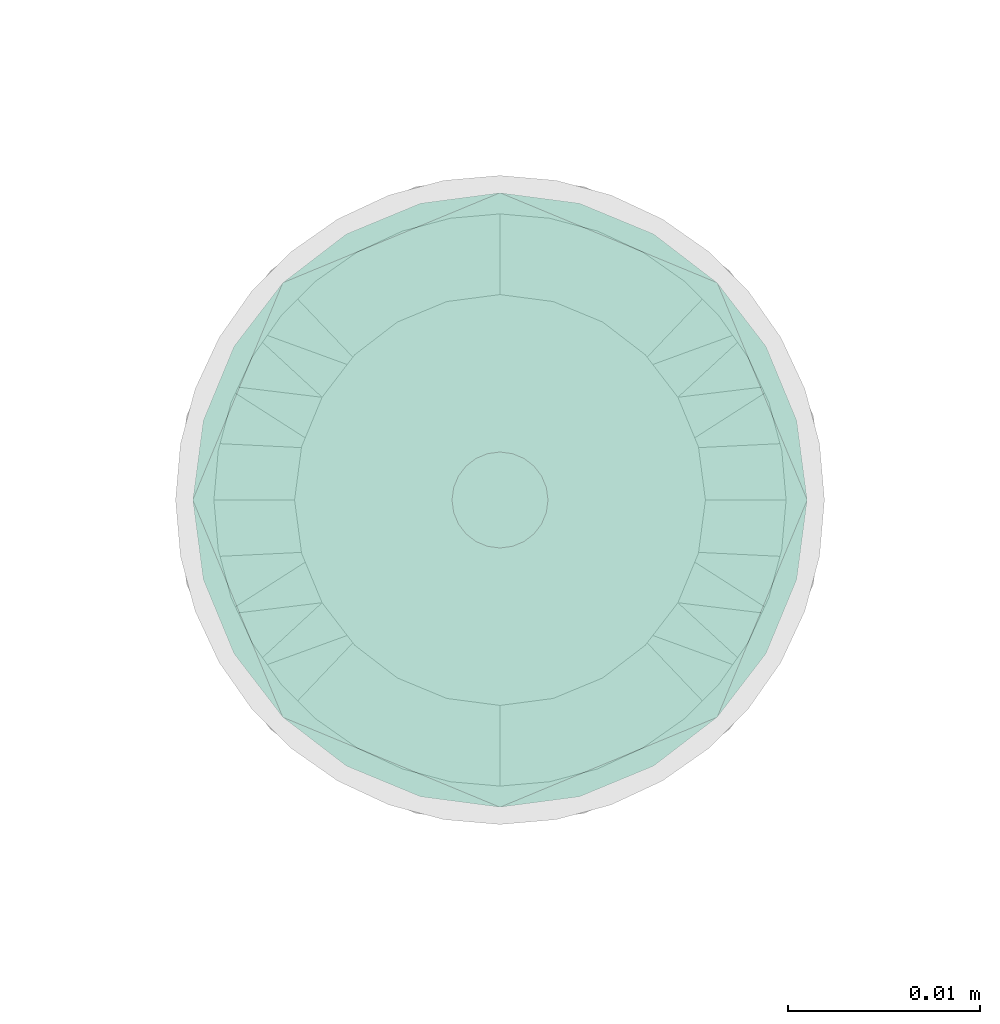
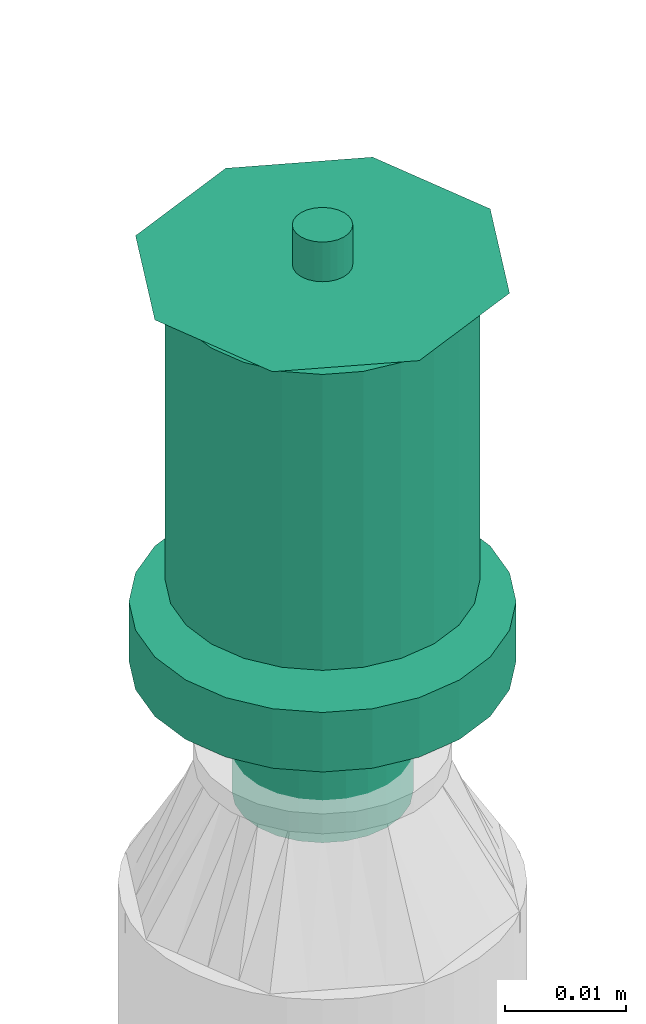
# One storey, part 22 of 44: 1 flow terminal.
"""IFC2X3 building model written with IfcOpenShell, lengths in millimetres."""

from ifc_helpers import new_model, entity, si_unit, converted_unit, derived_unit, direction, frame, origin_with_axes, place, context, subcontext, project, spatial, open_shell, surface_model, source, transform, mapped, type_object, element, save


model = new_model("IFC2X3")

# Units and contexts
model_context = context("Model", 3, precision=0.01, world=frame((0.0, 4.29681676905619e-09, 0.0)), true_north=direction((4.01073788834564e-13, 1.0)))
plan_context = context("Plan", 3, precision=0.01, world=frame((0.0, 4.29681676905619e-09, 0.0)), true_north=direction((4.01073788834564e-13, 1.0)))
body_context = subcontext(model_context, "Body", "Model", "MODEL_VIEW")
ifc_project = project(units=[converted_unit("PLANEANGLEUNIT", "DEGREE", entity("IfcPositiveLengthMeasure", 0.0174532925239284), si_unit("PLANEANGLEUNIT", "RADIAN"), dimensions=[0, 0, 0, 0, 0, 0, 0]), si_unit("AREAUNIT", "SQUARE_METRE"), si_unit("LENGTHUNIT", "METRE", prefix="MILLI"), si_unit("MASSUNIT", "GRAM", prefix="KILO"), si_unit("POWERUNIT", "WATT"), si_unit("PRESSUREUNIT", "PASCAL"), si_unit("FORCEUNIT", "NEWTON", prefix="KILO"), si_unit("ELECTRICVOLTAGEUNIT", "VOLT"), si_unit("ELECTRICCURRENTUNIT", "AMPERE"), si_unit("THERMODYNAMICTEMPERATUREUNIT", "DEGREE_CELSIUS"), si_unit("TIMEUNIT", "SECOND"), si_unit("VOLUMEUNIT", "CUBIC_METRE"), derived_unit("LINEARVELOCITYUNIT", [(si_unit("LENGTHUNIT", "METRE"), 1), (si_unit("TIMEUNIT", "SECOND"), -1)]), derived_unit("VOLUMETRICFLOWRATEUNIT", [(si_unit("VOLUMEUNIT", "CUBIC_METRE"), 1), (si_unit("TIMEUNIT", "SECOND"), -1)]), derived_unit("THERMALTRANSMITTANCEUNIT", [(si_unit("POWERUNIT", "WATT"), 1), (si_unit("THERMODYNAMICTEMPERATUREUNIT", "KELVIN"), -1), (si_unit("AREAUNIT", "SQUARE_METRE"), -1)]), derived_unit("SOUNDPRESSUREUNIT", [(si_unit("PRESSUREUNIT", "PASCAL"), 1)])], contexts=[model_context, plan_context])

# Site, building, storey
site_placement = place(None, frame((0.0, -4.29681676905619e-09, 0.0), z_axis=(0.0, 0.0, 1.0), x_axis=(1.0, 0.0, 0.0)))
site = spatial("IfcSite", under=ifc_project, at=site_placement, CompositionType="ELEMENT")
building_placement = place(site_placement, frame((0.0, 4.29681676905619e-09, 0.0), z_axis=(0.0, 0.0, 1.0), x_axis=(1.0, 0.0, 0.0)))
building = spatial("IfcBuilding", under=site, at=building_placement, Name="mc-building", CompositionType="ELEMENT")
storey_placement = place(building_placement, frame((0.0, 0.0, 207370.0), z_axis=(0.0, 0.0, 1.0), x_axis=(1.0, 0.0, 0.0)))
storey = spatial("IfcBuildingStorey", under=building, at=storey_placement, Name="Nivå E", CompositionType="ELEMENT", Elevation=207370.0)

# Flow terminal
fire_suppression_terminal_type = type_object("IfcFireSuppressionTerminalType", Name="68DGR-STD-STÅENDE", PredefinedType="NOTDEFINED")
shared_shape = source(origin_with_axes(), body_context, "Body", "SurfaceModel", [
    surface_model("IfcShellBasedSurfaceModel", [(3.36465, -12.55704, 51.0), (6.5, -11.25833, 51.0), (9.19239, -9.19239, 51.0), (12.55704, -3.36465, 51.0), (-11.25833, -6.5, 51.0), (11.25833, -6.5, 51.0), (-13.0, 0.0, 51.0), (0.0, -13.0, 51.0), (-6.5, -11.25833, 51.0), (-3.36465, -12.55704, 51.0), (-9.19239, -9.19239, 51.0), (-12.55704, -3.36465, 51.0), (13.0, 0.0, 51.0), (12.55704, 3.36465, 51.0), (11.25833, 6.5, 51.0), (9.19239, 9.19239, 51.0), (6.5, 11.25833, 51.0), (3.36465, 12.55704, 51.0), (0.0, 13.0, 51.0), (-3.36465, 12.55704, 51.0), (-12.55704, 3.36465, 51.0), (-9.19239, 9.19239, 51.0), (-11.25833, 6.5, 51.0), (-6.5, 11.25833, 51.0), (0.0, 13.0, 21.14766), (3.36465, 12.55704, 21.14766), (6.5, 11.25833, 21.14766), (-3.36465, 12.55704, 21.14766), (9.19239, 9.19239, 21.14766), (11.25833, 6.5, 21.14766), (12.55704, 3.36465, 21.14766), (-12.55704, 3.36465, 21.14766), (-11.25833, -6.5, 21.14766), (-9.19239, 9.19239, 21.14766), (-6.5, 11.25833, 21.14766), (-11.25833, 6.5, 21.14766), (-13.0, 0.0, 21.14766), (12.55704, -3.36465, 21.14766), (9.19239, -9.19239, 21.14766), (11.25833, -6.5, 21.14766), (6.5, -11.25833, 21.14766), (3.36465, -12.55704, 21.14766), (-6.5, -11.25833, 21.14766), (-9.19239, -9.19239, 21.14766), (-12.55704, -3.36465, 21.14766), (0.0, -13.0, 21.14766), (-3.36465, -12.55704, 21.14766), (13.0, 0.0, 21.14766), (7.24444, -1.94114, 0.1), (1.94114, -7.24444, 0.1), (3.75, -6.49519, 0.1), (5.3033, -5.3033, 0.1), (-5.3033, -5.3033, 0.1), (6.49519, -3.75, 0.1), (5.3033, 5.3033, 0.1), (0.0, -7.5, 0.1), (-3.75, -6.49519, 0.1), (-1.94114, -7.24444, 0.1), (-7.24444, -1.94114, 0.1), (-6.49519, -3.75, 0.1), (-7.24444, 1.94114, 0.1), (7.5, 0.0, 0.1), (6.49519, 3.75, 0.1), (-6.49519, 3.75, 0.1), (1.94114, 7.24444, 0.1), (0.0, 7.5, 0.1), (3.75, 6.49519, 0.1), (-7.5, 0.0, 0.1), (-5.3033, 5.3033, 0.1), (-1.94114, 7.24444, 0.1), (-3.75, 6.49519, 0.1), (7.24444, 1.94114, 0.1), (1.94114, 7.24444, -0.1), (-6.49519, 3.75, -0.1), (0.0, 7.5, -0.1), (5.3033, 5.3033, -0.1), (3.75, 6.49519, -0.1), (6.49519, 3.75, -0.1), (7.24444, 1.94114, -0.1), (-1.94114, 7.24444, -0.1), (-5.3033, 5.3033, -0.1), (-3.75, 6.49519, -0.1), (-7.24444, 1.94114, -0.1), (-7.24444, -1.94114, -0.1), (-7.5, 0.0, -0.1), (7.5, 0.0, -0.1), (7.24444, -1.94114, -0.1), (-5.3033, -5.3033, -0.1), (1.94114, -7.24444, -0.1), (6.49519, -3.75, -0.1), (5.3033, -5.3033, -0.1), (3.75, -6.49519, -0.1), (-6.49519, -3.75, -0.1), (-3.75, -6.49519, -0.1), (0.0, -7.5, -0.1), (-1.94114, -7.24444, -0.1), (0.0, -2.5, 51.0), (-2.5, 0.0, 51.0), (0.0, 2.5, 51.0), (2.5, 0.0, 51.0), (0.0, -16.0, 53.0), (11.31371, -11.31371, 53.0), (-11.31371, -11.31371, 53.0), (-16.0, 0.0, 53.0), (16.0, 0.0, 53.0), (11.31371, 11.31371, 53.0), (0.0, 16.0, 53.0), (-11.31371, 11.31371, 53.0), (1.25, -2.16506, 57.0), (0.0, -2.5, 57.0), (0.64705, -2.41481, 57.0), (2.41481, -0.64705, 57.0), (1.76777, -1.76777, 57.0), (-2.41481, -0.64705, 57.0), (-2.5, 0.0, 57.0), (2.16506, -1.25, 57.0), (-1.25, -2.16506, 57.0), (-0.64705, -2.41481, 57.0), (-1.76777, -1.76777, 57.0), (-2.16506, -1.25, 57.0), (2.5, 0.0, 57.0), (2.41481, 0.64705, 57.0), (2.16506, 1.25, 57.0), (1.76777, 1.76777, 57.0), (0.64705, 2.41481, 57.0), (1.25, 2.16506, 57.0), (-1.76777, 1.76777, 57.0), (0.0, 2.5, 57.0), (-2.16506, 1.25, 57.0), (-2.41481, 0.64705, 57.0), (-0.64705, 2.41481, 57.0), (-1.25, 2.16506, 57.0), (1.25, 2.16506, 51.0), (1.76777, 1.76777, 51.0), (1.15, 1.99186, 51.0), (0.59528, 2.22163, 51.0), (0.64705, 2.41481, 51.0), (0.0, 2.3, 51.0), (1.62635, 1.62635, 51.0), (2.41481, 0.64705, 51.0), (2.3, 0.0, 51.0), (2.22163, 0.59528, 51.0), (2.16506, 1.25, 51.0), (1.99186, 1.15, 51.0), (-0.59528, 2.22163, 51.0), (-0.64705, 2.41481, 51.0), (-1.15, 1.99186, 51.0), (-1.76777, 1.76777, 51.0), (-1.25, 2.16506, 51.0), (-1.62635, 1.62635, 51.0), (-1.99186, 1.15, 51.0), (-2.16506, 1.25, 51.0), (-2.22163, 0.59528, 51.0), (-2.41481, 0.64705, 51.0), (-2.3, 0.0, 51.0), (2.41481, -0.64705, 51.0), (2.22163, -0.59528, 51.0), (1.99186, -1.15, 51.0), (2.16506, -1.25, 51.0), (1.62635, -1.62635, 51.0), (1.76777, -1.76777, 51.0), (1.25, -2.16506, 51.0), (1.15, -1.99186, 51.0), (0.59528, -2.22163, 51.0), (0.64705, -2.41481, 51.0), (0.0, -2.3, 51.0), (-2.16506, -1.25, 51.0), (-1.99186, -1.15, 51.0), (-1.76777, -1.76777, 51.0), (-1.62635, -1.62635, 51.0), (-2.41481, -0.64705, 51.0), (-2.22163, -0.59528, 51.0), (-0.59528, -2.22163, 51.0), (-0.64705, -2.41481, 51.0), (-1.15, -1.99186, 51.0), (-1.25, -2.16506, 51.0), (1.62635, -1.62635, 56.8), (1.15, -1.99186, 56.8), (0.59528, -2.22163, 56.8), (0.0, -2.3, 56.8), (2.22163, 0.59528, 56.8), (1.99186, -1.15, 56.8), (2.22163, -0.59528, 56.8), (-0.59528, -2.22163, 56.8), (-1.15, -1.99186, 56.8), (-1.62635, -1.62635, 56.8), (-1.99186, -1.15, 56.8), (-2.22163, -0.59528, 56.8), (-1.99186, 1.15, 56.8), (2.3, 0.0, 56.8), (1.62635, 1.62635, 56.8), (1.99186, 1.15, 56.8), (1.15, 1.99186, 56.8), (0.0, 2.3, 56.8), (0.59528, 2.22163, 56.8), (-2.22163, 0.59528, 56.8), (-2.3, 0.0, 56.8), (-1.15, 1.99186, 56.8), (-0.59528, 2.22163, 56.8), (-1.62635, 1.62635, 56.8), (4.1411, -15.45481, 19.0), (8.0, -13.85641, 19.0), (11.31371, -11.31371, 19.0), (-8.0, -13.85641, 19.0), (15.45481, -4.1411, 19.0), (16.0, 0.0, 19.0), (13.85641, -8.0, 19.0), (0.0, -16.0, 19.0), (-4.1411, -15.45481, 19.0), (-13.85641, -8.0, 19.0), (-11.31371, -11.31371, 19.0), (-15.45481, -4.1411, 19.0), (15.45481, 4.1411, 19.0), (13.85641, 8.0, 19.0), (11.31371, 11.31371, 19.0), (-4.1411, 15.45481, 19.0), (8.0, 13.85641, 19.0), (4.1411, 15.45481, 19.0), (0.0, 16.0, 19.0), (-13.85641, 8.0, 19.0), (-15.45481, 4.1411, 19.0), (-16.0, 0.0, 19.0), (-11.31371, 11.31371, 19.0), (-8.0, 13.85641, 19.0), (0.0, 16.0, 13.0), (4.1411, 15.45481, 13.0), (8.0, 13.85641, 13.0), (-4.1411, 15.45481, 13.0), (11.31371, 11.31371, 13.0), (13.85641, 8.0, 13.0), (15.45481, 4.1411, 13.0), (-15.45481, -4.1411, 13.0), (-11.31371, 11.31371, 13.0), (-8.0, 13.85641, 13.0), (-13.85641, 8.0, 13.0), (-15.45481, 4.1411, 13.0), (-16.0, 0.0, 13.0), (4.1411, -15.45481, 13.0), (16.0, 0.0, 13.0), (15.45481, -4.1411, 13.0), (13.85641, -8.0, 13.0), (11.31371, -11.31371, 13.0), (8.0, -13.85641, 13.0), (-8.0, -13.85641, 13.0), (-13.85641, -8.0, 13.0), (-11.31371, -11.31371, 13.0), (0.0, -16.0, 13.0), (-4.1411, -15.45481, 13.0), (7.24444, -1.94114, 13.0), (1.94114, -7.24444, 13.0), (3.75, -6.49519, 13.0), (5.3033, -5.3033, 13.0), (-5.3033, -5.3033, 13.0), (6.49519, -3.75, 13.0), (5.3033, 5.3033, 13.0), (0.0, -7.5, 13.0), (-3.75, -6.49519, 13.0), (-1.94114, -7.24444, 13.0), (-7.24444, -1.94114, 13.0), (-6.49519, -3.75, 13.0), (-7.24444, 1.94114, 13.0), (7.5, 0.0, 13.0), (6.49519, 3.75, 13.0), (-6.49519, 3.75, 13.0), (1.94114, 7.24444, 13.0), (0.0, 7.5, 13.0), (3.75, 6.49519, 13.0), (-7.5, 0.0, 13.0), (-5.3033, 5.3033, 13.0), (-1.94114, 7.24444, 13.0), (-3.75, 6.49519, 13.0), (7.24444, 1.94114, 13.0), (3.75, 6.49519, 0.0), (5.3033, 5.3033, 0.0), (3.65, 6.32199, 0.0), (1.88938, 7.05126, 0.0), (0.0, 7.3, 0.0), (1.94114, 7.24444, 0.0), (0.0, 7.5, 0.0), (5.16188, 5.16188, 0.0), (7.24444, 1.94114, 0.0), (7.3, 0.0, 0.0), (7.05126, 1.88938, 0.0), (7.5, 0.0, 0.0), (6.49519, 3.75, 0.0), (6.32199, 3.65, 0.0), (-1.88938, 7.05126, 0.0), (-1.94114, 7.24444, 0.0), (-3.65, 6.32199, 0.0), (-5.3033, 5.3033, 0.0), (-3.75, 6.49519, 0.0), (-5.16188, 5.16188, 0.0), (-6.32199, 3.65, 0.0), (-6.49519, 3.75, 0.0), (-7.05126, 1.88938, 0.0), (-7.24444, 1.94114, 0.0), (-7.3, 0.0, 0.0), (-7.5, 0.0, 0.0), (7.24444, -1.94114, 0.0), (7.05126, -1.88938, 0.0), (6.32199, -3.65, 0.0), (6.49519, -3.75, 0.0), (5.16188, -5.16188, 0.0), (5.3033, -5.3033, 0.0), (3.75, -6.49519, 0.0), (3.65, -6.32199, 0.0), (1.88938, -7.05126, 0.0), (1.94114, -7.24444, 0.0), (0.0, -7.3, 0.0), (0.0, -7.5, 0.0), (-6.49519, -3.75, 0.0), (-6.32199, -3.65, 0.0), (-5.3033, -5.3033, 0.0), (-5.16188, -5.16188, 0.0), (-7.24444, -1.94114, 0.0), (-7.05126, -1.88938, 0.0), (-1.88938, -7.05126, 0.0), (-1.94114, -7.24444, 0.0), (-3.65, -6.32199, 0.0), (-3.75, -6.49519, 0.0), (1.88938, -7.05126, 12.8), (0.0, -7.3, 12.8), (3.65, -6.32199, 12.8), (5.16188, -5.16188, 12.8), (6.32199, -3.65, 12.8), (7.05126, 1.88938, 12.8), (7.05126, -1.88938, 12.8), (-5.16188, -5.16188, 12.8), (-1.88938, -7.05126, 12.8), (-3.65, -6.32199, 12.8), (-6.32199, -3.65, 12.8), (-7.05126, -1.88938, 12.8), (0.0, 7.3, 12.8), (7.3, 0.0, 12.8), (6.32199, 3.65, 12.8), (5.16188, 5.16188, 12.8), (3.65, 6.32199, 12.8), (1.88938, 7.05126, 12.8), (-6.32199, 3.65, 12.8), (-7.05126, 1.88938, 12.8), (-7.3, 0.0, 12.8), (-3.65, 6.32199, 12.8), (-1.88938, 7.05126, 12.8), (-5.16188, 5.16188, 12.8)], [open_shell([[[0, 1, 2]], [[0, 2, 3]], [[0, 3, 4]], [[3, 2, 5]], [[6, 4, 3]], [[7, 8, 9]], [[7, 0, 8]], [[8, 4, 10]], [[0, 4, 8]], [[4, 6, 11]], [[6, 3, 12]], [[13, 14, 15]], [[6, 13, 15]], [[16, 17, 18]], [[15, 16, 19]], [[18, 19, 16]], [[20, 21, 22]], [[20, 6, 15]], [[21, 19, 23]], [[19, 21, 20]], [[15, 19, 20]], [[13, 6, 12]], [[24, 25, 26]], [[27, 24, 26]], [[28, 29, 30]], [[26, 28, 31]], [[28, 32, 31]], [[27, 33, 34]], [[33, 27, 31]], [[33, 31, 35]], [[27, 26, 31]], [[31, 32, 36]], [[32, 28, 30]], [[32, 30, 37]], [[38, 37, 39]], [[38, 40, 41]], [[38, 41, 37]], [[32, 37, 41]], [[32, 42, 43]], [[44, 36, 32]], [[42, 45, 46]], [[42, 32, 41]], [[45, 42, 41]], [[30, 47, 37]], [[4, 32, 43]], [[8, 42, 46]], [[43, 42, 10]], [[9, 46, 45]], [[36, 11, 6]], [[11, 36, 44]], [[11, 44, 4]], [[44, 32, 4]], [[43, 10, 4]], [[8, 10, 42]], [[46, 9, 8]], [[45, 7, 9]], [[0, 41, 40]], [[38, 1, 40]], [[5, 39, 37]], [[38, 39, 2]], [[3, 37, 47]], [[41, 0, 7]], [[40, 1, 0]], [[38, 2, 1]], [[39, 5, 2]], [[3, 5, 37]], [[47, 12, 3]], [[41, 7, 45]], [[30, 13, 47]], [[29, 14, 30]], [[25, 24, 17]], [[15, 29, 28]], [[30, 14, 13]], [[13, 12, 47]], [[16, 26, 17]], [[16, 15, 28]], [[26, 25, 17]], [[15, 14, 29]], [[28, 26, 16]], [[24, 18, 17]], [[19, 27, 34]], [[33, 23, 34]], [[22, 35, 31]], [[33, 35, 21]], [[20, 31, 36]], [[27, 19, 18]], [[34, 23, 19]], [[33, 21, 23]], [[35, 22, 21]], [[20, 22, 31]], [[36, 6, 20]], [[27, 18, 24]], [[48, 49, 50]], [[48, 50, 51]], [[49, 48, 52]], [[48, 51, 53]], [[54, 52, 48]], [[55, 56, 57]], [[56, 55, 52]], [[52, 58, 59]], [[52, 55, 49]], [[52, 60, 58]], [[54, 48, 61]], [[62, 54, 61]], [[54, 63, 52]], [[64, 65, 54]], [[64, 54, 66]], [[63, 54, 65]], [[63, 60, 52]], [[67, 58, 60]], [[68, 69, 70]], [[69, 68, 63]], [[69, 63, 65]], [[71, 62, 61]], [[72, 73, 74]], [[75, 72, 76]], [[75, 77, 78]], [[72, 75, 73]], [[78, 73, 75]], [[79, 80, 81]], [[80, 79, 73]], [[74, 73, 79]], [[78, 82, 73]], [[82, 83, 84]], [[82, 78, 85]], [[86, 87, 85]], [[88, 86, 89]], [[90, 91, 88]], [[90, 88, 89]], [[87, 86, 88]], [[83, 87, 92]], [[83, 85, 87]], [[93, 94, 95]], [[94, 93, 87]], [[88, 94, 87]], [[85, 83, 82]], [[83, 58, 84]], [[92, 59, 83]], [[56, 87, 93]], [[92, 87, 52]], [[57, 93, 95]], [[83, 59, 58]], [[58, 67, 84]], [[57, 56, 93]], [[52, 87, 56]], [[52, 59, 92]], [[55, 57, 95]], [[95, 94, 55]], [[88, 49, 94]], [[91, 50, 88]], [[53, 90, 89]], [[91, 90, 51]], [[48, 89, 86]], [[91, 51, 50]], [[50, 49, 88]], [[61, 48, 86]], [[53, 89, 48]], [[53, 51, 90]], [[85, 61, 86]], [[94, 49, 55]], [[78, 71, 85]], [[77, 62, 78]], [[66, 75, 76]], [[77, 75, 54]], [[64, 76, 72]], [[78, 62, 71]], [[71, 61, 85]], [[64, 66, 76]], [[54, 75, 66]], [[54, 62, 77]], [[65, 64, 72]], [[72, 74, 65]], [[79, 69, 74]], [[81, 70, 79]], [[63, 80, 73]], [[81, 80, 68]], [[60, 73, 82]], [[81, 68, 70]], [[70, 69, 79]], [[67, 60, 82]], [[63, 73, 60]], [[63, 68, 80]], [[84, 67, 82]], [[74, 69, 65]], [[96, 97, 98]], [[98, 99, 96]], [[100, 101, 102]], [[103, 102, 101]], [[101, 104, 103]], [[104, 105, 106]], [[107, 103, 106]], [[106, 103, 104]], [[99, 98, 105]], [[105, 104, 99]], [[98, 106, 105]], [[98, 107, 106]], [[107, 98, 97]], [[103, 107, 97]], [[97, 96, 102]], [[102, 103, 97]], [[96, 100, 102]], [[96, 101, 100]], [[101, 96, 99]], [[104, 101, 99]], [[108, 109, 110]], [[111, 108, 112]], [[113, 108, 114]], [[111, 112, 115]], [[108, 111, 114]], [[109, 116, 117]], [[116, 109, 118]], [[118, 113, 119]], [[118, 109, 108]], [[108, 113, 118]], [[111, 120, 114]], [[121, 122, 123]], [[114, 121, 123]], [[114, 123, 124]], [[124, 123, 125]], [[126, 124, 127]], [[124, 128, 129]], [[129, 114, 124]], [[126, 130, 131]], [[128, 124, 126]], [[130, 126, 127]], [[121, 114, 120]], [[132, 133, 134]], [[132, 134, 135]], [[136, 135, 137]], [[135, 136, 132]], [[136, 137, 98]], [[134, 133, 138]], [[139, 140, 141]], [[140, 139, 99]], [[139, 141, 142]], [[138, 142, 143]], [[142, 138, 133]], [[143, 142, 141]], [[98, 144, 145]], [[98, 137, 144]], [[145, 144, 146]], [[147, 148, 149]], [[146, 148, 145]], [[149, 148, 146]], [[150, 151, 147]], [[151, 150, 152]], [[150, 147, 149]], [[153, 152, 154]], [[152, 153, 151]], [[153, 154, 97]], [[99, 155, 156]], [[156, 155, 157]], [[157, 158, 159]], [[158, 157, 155]], [[159, 158, 160]], [[160, 161, 162]], [[162, 161, 163]], [[163, 164, 165]], [[164, 163, 161]], [[165, 164, 96]], [[162, 159, 160]], [[166, 167, 168]], [[168, 167, 169]], [[167, 166, 170]], [[97, 171, 170]], [[170, 171, 167]], [[97, 154, 171]], [[172, 96, 173]], [[172, 173, 174]], [[169, 175, 168]], [[175, 169, 174]], [[175, 174, 173]], [[165, 96, 172]], [[156, 140, 99]], [[170, 113, 97]], [[166, 119, 170]], [[116, 168, 175]], [[166, 168, 118]], [[117, 175, 173]], [[170, 119, 113]], [[113, 114, 97]], [[117, 116, 175]], [[118, 168, 116]], [[118, 119, 166]], [[109, 117, 173]], [[173, 96, 109]], [[164, 110, 96]], [[161, 108, 164]], [[115, 160, 158]], [[161, 160, 112]], [[111, 158, 155]], [[161, 112, 108]], [[108, 110, 164]], [[120, 111, 155]], [[115, 158, 111]], [[115, 112, 160]], [[99, 120, 155]], [[96, 110, 109]], [[139, 121, 99]], [[142, 122, 139]], [[125, 133, 132]], [[142, 133, 123]], [[124, 132, 136]], [[139, 122, 121]], [[121, 120, 99]], [[124, 125, 132]], [[123, 133, 125]], [[123, 122, 142]], [[127, 124, 136]], [[136, 98, 127]], [[145, 130, 98]], [[148, 131, 145]], [[128, 147, 151]], [[148, 147, 126]], [[129, 151, 153]], [[148, 126, 131]], [[131, 130, 145]], [[114, 129, 153]], [[128, 151, 129]], [[128, 126, 147]], [[97, 114, 153]], [[98, 130, 127]], [[176, 177, 178]], [[176, 178, 179]], [[180, 176, 179]], [[181, 176, 182]], [[180, 182, 176]], [[183, 184, 179]], [[185, 179, 184]], [[186, 187, 185]], [[185, 187, 188]], [[179, 185, 188]], [[189, 182, 180]], [[190, 191, 180]], [[192, 190, 180]], [[193, 194, 192]], [[180, 193, 192]], [[188, 193, 180]], [[195, 188, 196]], [[196, 188, 187]], [[197, 198, 199]], [[188, 199, 198]], [[188, 198, 193]], [[180, 179, 188]], [[154, 187, 171]], [[171, 186, 167]], [[174, 169, 184]], [[185, 169, 167]], [[172, 174, 183]], [[187, 186, 171]], [[154, 196, 187]], [[174, 184, 183]], [[184, 169, 185]], [[167, 186, 185]], [[172, 183, 179]], [[179, 165, 172]], [[165, 178, 163]], [[163, 177, 162]], [[157, 159, 181]], [[176, 159, 162]], [[156, 157, 182]], [[177, 176, 162]], [[163, 178, 177]], [[156, 182, 189]], [[182, 157, 181]], [[159, 176, 181]], [[156, 189, 140]], [[179, 178, 165]], [[140, 180, 141]], [[141, 191, 143]], [[134, 138, 192]], [[190, 138, 143]], [[135, 134, 194]], [[180, 191, 141]], [[140, 189, 180]], [[134, 192, 194]], [[192, 138, 190]], [[143, 191, 190]], [[135, 194, 193]], [[193, 137, 135]], [[137, 198, 144]], [[144, 197, 146]], [[150, 149, 188]], [[199, 149, 146]], [[152, 150, 195]], [[197, 199, 146]], [[144, 198, 197]], [[152, 195, 196]], [[195, 150, 188]], [[149, 199, 188]], [[152, 196, 154]], [[193, 198, 137]], [[200, 201, 202]], [[203, 200, 202]], [[204, 205, 202]], [[204, 202, 206]], [[203, 202, 205]], [[207, 203, 208]], [[207, 200, 203]], [[203, 209, 210]], [[209, 203, 211]], [[205, 211, 203]], [[205, 212, 211]], [[212, 213, 214]], [[215, 212, 214]], [[216, 217, 218]], [[214, 216, 215]], [[218, 215, 216]], [[211, 219, 220]], [[221, 211, 220]], [[222, 215, 223]], [[215, 222, 219]], [[219, 211, 215]], [[211, 212, 215]], [[224, 225, 226]], [[227, 224, 226]], [[228, 229, 230]], [[227, 226, 228]], [[227, 228, 231]], [[227, 232, 233]], [[232, 227, 234]], [[234, 231, 235]], [[231, 234, 227]], [[235, 231, 236]], [[228, 230, 231]], [[237, 238, 239]], [[237, 239, 240]], [[241, 242, 237]], [[241, 237, 240]], [[238, 237, 243]], [[244, 243, 245]], [[243, 244, 231]], [[243, 246, 247]], [[243, 231, 238]], [[237, 246, 243]], [[238, 231, 230]], [[231, 211, 236]], [[244, 209, 231]], [[203, 245, 243]], [[244, 245, 210]], [[208, 243, 247]], [[231, 209, 211]], [[211, 221, 236]], [[208, 203, 243]], [[210, 245, 203]], [[210, 209, 244]], [[207, 208, 247]], [[247, 246, 207]], [[237, 200, 246]], [[242, 201, 237]], [[206, 241, 240]], [[242, 241, 202]], [[204, 240, 239]], [[242, 202, 201]], [[201, 200, 237]], [[205, 204, 239]], [[206, 240, 204]], [[206, 202, 241]], [[238, 205, 239]], [[246, 200, 207]], [[230, 212, 238]], [[229, 213, 230]], [[216, 228, 226]], [[229, 228, 214]], [[217, 226, 225]], [[230, 213, 212]], [[212, 205, 238]], [[217, 216, 226]], [[214, 228, 216]], [[214, 213, 229]], [[218, 217, 225]], [[225, 224, 218]], [[227, 215, 224]], [[233, 223, 227]], [[219, 232, 234]], [[233, 232, 222]], [[220, 234, 235]], [[233, 222, 223]], [[223, 215, 227]], [[221, 220, 235]], [[219, 234, 220]], [[219, 222, 232]], [[236, 221, 235]], [[224, 215, 218]], [[248, 249, 250]], [[248, 250, 251]], [[249, 248, 252]], [[248, 251, 253]], [[254, 252, 248]], [[255, 256, 257]], [[256, 255, 252]], [[252, 258, 259]], [[252, 255, 249]], [[252, 260, 258]], [[254, 248, 261]], [[262, 254, 261]], [[254, 263, 252]], [[264, 265, 254]], [[264, 254, 266]], [[263, 254, 265]], [[263, 260, 252]], [[267, 258, 260]], [[268, 269, 270]], [[269, 268, 263]], [[269, 263, 265]], [[271, 262, 261]], [[272, 273, 274]], [[272, 274, 275]], [[276, 277, 275]], [[277, 276, 278]], [[275, 277, 272]], [[274, 273, 279]], [[280, 281, 282]], [[281, 280, 283]], [[280, 282, 284]], [[279, 284, 285]], [[284, 279, 273]], [[285, 284, 282]], [[278, 286, 287]], [[287, 286, 288]], [[289, 290, 291]], [[288, 290, 287]], [[288, 291, 290]], [[278, 276, 286]], [[292, 293, 289]], [[293, 292, 294]], [[292, 289, 291]], [[295, 294, 296]], [[294, 295, 293]], [[295, 296, 297]], [[283, 298, 299]], [[299, 298, 300]], [[300, 301, 302]], [[301, 300, 298]], [[302, 301, 303]], [[303, 304, 305]], [[305, 304, 306]], [[306, 307, 308]], [[307, 306, 304]], [[308, 307, 309]], [[305, 302, 303]], [[310, 311, 312]], [[312, 311, 313]], [[311, 310, 314]], [[297, 315, 314]], [[314, 315, 311]], [[297, 296, 315]], [[316, 309, 317]], [[316, 317, 318]], [[313, 319, 312]], [[313, 318, 319]], [[319, 318, 317]], [[308, 309, 316]], [[299, 281, 283]], [[314, 258, 297]], [[310, 259, 314]], [[256, 312, 319]], [[310, 312, 252]], [[257, 319, 317]], [[314, 259, 258]], [[258, 267, 297]], [[257, 256, 319]], [[252, 312, 256]], [[252, 259, 310]], [[255, 257, 317]], [[317, 309, 255]], [[307, 249, 309]], [[304, 250, 307]], [[253, 303, 301]], [[304, 303, 251]], [[248, 301, 298]], [[304, 251, 250]], [[250, 249, 307]], [[261, 248, 298]], [[253, 301, 248]], [[253, 251, 303]], [[283, 261, 298]], [[309, 249, 255]], [[280, 271, 283]], [[284, 262, 280]], [[266, 273, 272]], [[284, 273, 254]], [[264, 272, 277]], [[280, 262, 271]], [[271, 261, 283]], [[264, 266, 272]], [[254, 273, 266]], [[254, 262, 284]], [[265, 264, 277]], [[277, 278, 265]], [[287, 269, 278]], [[290, 270, 287]], [[263, 289, 293]], [[290, 289, 268]], [[260, 293, 295]], [[290, 268, 270]], [[270, 269, 287]], [[267, 260, 295]], [[263, 293, 260]], [[263, 268, 289]], [[297, 267, 295]], [[278, 269, 265]], [[320, 321, 322]], [[323, 322, 324]], [[325, 326, 322]], [[324, 322, 326]], [[322, 327, 325]], [[328, 329, 321]], [[327, 321, 329]], [[330, 331, 327]], [[322, 321, 327]], [[331, 332, 327]], [[326, 325, 333]], [[334, 325, 332]], [[335, 334, 336]], [[332, 337, 336]], [[334, 332, 336]], [[331, 338, 332]], [[339, 338, 340]], [[340, 338, 331]], [[341, 342, 343]], [[332, 338, 343]], [[332, 343, 342]], [[332, 325, 327]], [[296, 331, 315]], [[315, 330, 311]], [[318, 313, 329]], [[327, 313, 311]], [[316, 318, 328]], [[331, 330, 315]], [[296, 340, 331]], [[318, 329, 328]], [[329, 313, 327]], [[311, 330, 327]], [[316, 328, 321]], [[321, 308, 316]], [[308, 320, 306]], [[306, 322, 305]], [[300, 302, 324]], [[323, 302, 305]], [[299, 300, 326]], [[322, 323, 305]], [[306, 320, 322]], [[299, 326, 333]], [[326, 300, 324]], [[302, 323, 324]], [[299, 333, 281]], [[321, 320, 308]], [[281, 325, 282]], [[282, 334, 285]], [[274, 279, 336]], [[335, 279, 285]], [[275, 274, 337]], [[325, 334, 282]], [[281, 333, 325]], [[274, 336, 337]], [[336, 279, 335]], [[285, 334, 335]], [[275, 337, 332]], [[332, 276, 275]], [[276, 342, 286]], [[286, 341, 288]], [[292, 291, 338]], [[343, 291, 288]], [[294, 292, 339]], [[341, 343, 288]], [[286, 342, 341]], [[294, 339, 340]], [[339, 292, 338]], [[291, 343, 338]], [[294, 340, 296]], [[332, 342, 276]]])]),
])
flow_terminal_placement = place(storey_placement, frame((530500.0, 453009.83177, 3036.95754999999), z_axis=(0.0, 0.0, 1.0), x_axis=(1.0, 0.0, 0.0)))
element("IfcFlowTerminal", 1, at=flow_terminal_placement, inside=storey, type_object=fire_suppression_terminal_type, Name="68DGR-STD-STÅENDE", context=body_context, shape_type="MappedRepresentation", body=[
    mapped(shared_shape, transform((0.0, 0.0, 0.0), scale=1.0)),
])

save(model, "model.ifc")
